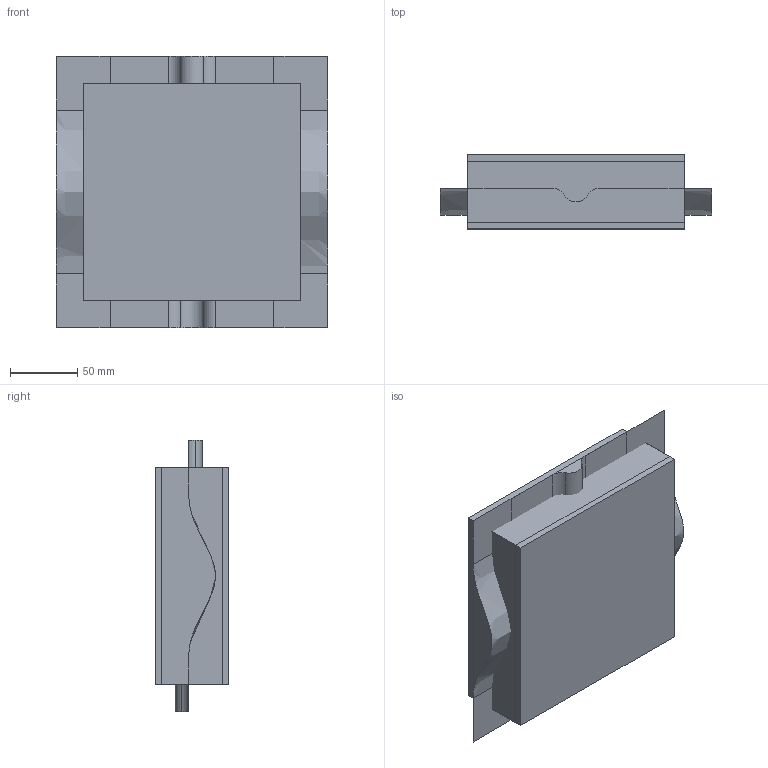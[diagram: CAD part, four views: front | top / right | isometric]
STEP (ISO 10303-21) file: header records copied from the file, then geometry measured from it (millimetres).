
FILE_DESCRIPTION(('CATIA V5 STEP Exchange'),'2;1');
FILE_NAME('C:\_Andres\UNIVERSIDAD\IQS\ASIGNATURAS\DAO\EXF\EXF-16172c\2inicio\Pascual_Sarrias_Ej02_v22.stp','2017-03-05T15:45:31+00:00',('none'),('none'),'CATIA Version 5-6 Release 2014 SP1 HF18','CATIA V5 STEP AP203','none');
FILE_SCHEMA(('CONFIG_CONTROL_DESIGN'));
Length unit declared in the file: millimetre
Products named in the file (1): Pascual_Sarrias_Ej02_v22
Bounding box: 202 x 55 x 202 mm (x, y, z)
Surface area: 263646.7 mm2
Topology: 3 solids, 10 shells, 72 faces, 205 edges, 150 vertices
Faces by surface type: bspline 32, plane 32, cylinder 6, extrusion 2
Entity records: 6002 total; most frequent: CARTESIAN_POINT 4685, ORIENTED_EDGE 288, DIRECTION 151, EDGE_CURVE 132, VERTEX_POINT 84, VECTOR 77, LINE 75, ADVANCED_FACE 72
